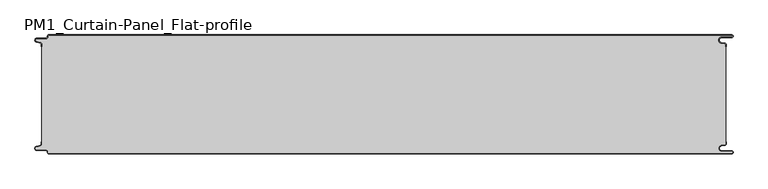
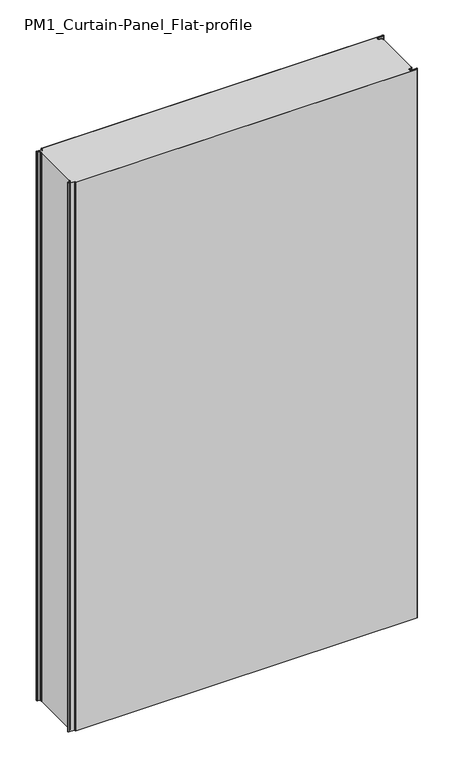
"""IFC4 building model written with IfcOpenShell, lengths in millimetres: plate geometry, PM1_Curtain-Panel_Flat-profile : ACH_PM1_Stone-wool-Panel_200M."""

import ifcopenshell
import ifcopenshell.guid

model = None  # the IFC model being written
_history = None  # IfcOwnerHistory: only IFC2X3 demands one
_inside = {}  # id of a spatial element -> (the spatial element, [elements in it])
_under = {}  # id of a project, library or spatial element -> (it, [spatial elements below it])
_declared = {}  # id of a project -> (the project, [libraries it declares])
_typed = {}  # id of a type object -> (the type object, [elements of that type])
_made_of = {}  # id of a material, layer set ... -> (it, [elements and type objects made of it])


def new_model(schema):
    """Start an empty IFC model of exactly this schema.

    Asked for "IFC4X3", IfcOpenShell would pick the latest addendum, in which some entities
    have other attributes; the version numbers below select the first issue.
    IFC2X3 requires an IfcOwnerHistory on every rooted entity: one is made here for all.
    """
    global model, _history
    if schema == "IFC4X3":
        model = ifcopenshell.file(schema_version=(4, 3, 0, 0))
    else:
        model = ifcopenshell.file(schema=schema)
    _inside.clear()
    _under.clear()
    _declared.clear()
    _typed.clear()
    _made_of.clear()
    _history = None
    if model.schema == "IFC2X3":
        org = make("IfcOrganization", Name="unknown")
        user = make(
            "IfcPersonAndOrganization",
            ThePerson=make("IfcPerson", FamilyName="unknown"),
            TheOrganization=org,
        )
        app = make(
            "IfcApplication",
            ApplicationDeveloper=org,
            Version="unknown",
            ApplicationFullName="unknown",
            ApplicationIdentifier="unknown",
        )
        _history = make(
            "IfcOwnerHistory",
            OwningUser=user,
            OwningApplication=app,
            ChangeAction="ADDED",
            CreationDate=0,
        )
    return model


def make(cls, **values):
    """One entity of the class cls with the attributes given. An attribute that is None is left unset."""
    return model.create_entity(
        cls, **{name: value for name, value in values.items() if value is not None}
    )


def rooted(cls, **values):
    """An entity with a GlobalId (a new one), such as an element, a storey or a relation."""
    return make(cls, GlobalId=ifcopenshell.guid.new(), OwnerHistory=_history, **values)


def si_unit(unit_type, name, prefix=None):
    """IfcSIUnit, for example si_unit("LENGTHUNIT", "METRE", prefix="MILLI")."""
    return make("IfcSIUnit", UnitType=unit_type, Prefix=prefix, Name=name)


def assignment(units):
    """IfcUnitAssignment: the units of a project."""
    return None if units is None else make("IfcUnitAssignment", Units=units)


def point(xyz):
    """IfcCartesianPoint."""
    return None if xyz is None else make("IfcCartesianPoint", Coordinates=xyz)


def direction(xyz):
    """IfcDirection."""
    return None if xyz is None else make("IfcDirection", DirectionRatios=xyz)


def frame(location, z_axis=None, x_axis=None):
    """IfcAxis2Placement3D, a coordinate frame: its origin and axes. An axis left out is left unset."""
    return make(
        "IfcAxis2Placement3D",
        Location=point(location),
        Axis=direction(z_axis),
        RefDirection=direction(x_axis),
    )


def frame_2d(location, x_axis=None):
    """IfcAxis2Placement2D, a coordinate frame in the plane: its origin and x axis."""
    return make(
        "IfcAxis2Placement2D", Location=point(location), RefDirection=direction(x_axis)
    )


def origin():
    """The frame at (0, 0, 0) with its axes left unset."""
    return frame((0.0, 0.0, 0.0))


def origin_with_axes():
    """The frame at (0, 0, 0) with the z axis (0, 0, 1) and the x axis (1, 0, 0) written out."""
    return frame((0.0, 0.0, 0.0), z_axis=(0.0, 0.0, 1.0), x_axis=(1.0, 0.0, 0.0))


def place(relative_to, where):
    """IfcLocalPlacement: puts the frame where relative to a parent placement (None: the world)."""
    return make(
        "IfcLocalPlacement", PlacementRelTo=relative_to, RelativePlacement=where
    )


def context(
    kind, dimensions, precision=None, world=None, true_north=None, identifier=None
):
    """IfcGeometricRepresentationContext, for example the 3D "Model" context."""
    return make(
        "IfcGeometricRepresentationContext",
        ContextIdentifier=identifier,
        ContextType=kind,
        CoordinateSpaceDimension=dimensions,
        Precision=precision,
        WorldCoordinateSystem=world,
        TrueNorth=true_north,
    )


def project(units=None, contexts=None):
    """IfcProject with its units and contexts."""
    return rooted(
        "IfcProject",
        Name="project",
        RepresentationContexts=contexts,
        UnitsInContext=assignment(units),
    )


def spatial(cls, under=None, at=None, **own):
    """A site, building, storey or space (cls), placed at a placement, below another one or the project."""
    s = rooted(cls, ObjectPlacement=at, **own)
    if under is not None:
        _under.setdefault(under.id(), (under, []))[1].append(s)
    return s


def polyline(points):
    """IfcPolyline through the points."""
    return make("IfcPolyline", Points=[point(p) for p in points])


def circle_curve(where, radius):
    """IfcCircle in the frame where."""
    return make("IfcCircle", Position=where, Radius=radius)


def trimmed(basis, trim1, trim2, sense, master):
    """IfcTrimmedCurve: the piece of a basis curve between two trims."""
    return make(
        "IfcTrimmedCurve",
        BasisCurve=basis,
        Trim1=trim1,
        Trim2=trim2,
        SenseAgreement=sense,
        MasterRepresentation=master,
    )


def segment(curve, same_sense, transition):
    """IfcCompositeCurveSegment."""
    return make(
        "IfcCompositeCurveSegment",
        Transition=transition,
        SameSense=same_sense,
        ParentCurve=curve,
    )


def composite_curve(segments, self_intersect=None):
    """IfcCompositeCurve: segments joined end to end."""
    return make("IfcCompositeCurve", Segments=segments, SelfIntersect=self_intersect)


def outline(outer, holes=None, kind="AREA"):
    """IfcArbitraryClosedProfileDef: a profile drawn as a closed curve; with holes, ...WithVoids."""
    if holes is None:
        return make("IfcArbitraryClosedProfileDef", ProfileType=kind, OuterCurve=outer)
    return make(
        "IfcArbitraryProfileDefWithVoids",
        ProfileType=kind,
        OuterCurve=outer,
        InnerCurves=holes,
    )


def extrude(swept, where, along, depth):
    """IfcExtrudedAreaSolid: the profile swept, set in the frame where, extruded along a direction by depth."""
    return make(
        "IfcExtrudedAreaSolid",
        SweptArea=swept,
        Position=where,
        ExtrudedDirection=direction(along),
        Depth=depth,
    )


def shape(context_of_items, identifier, shape_type, items):
    """IfcShapeRepresentation: the items that make up one representation, for example the "Body"."""
    return make(
        "IfcShapeRepresentation",
        ContextOfItems=context_of_items,
        RepresentationIdentifier=identifier,
        RepresentationType=shape_type,
        Items=items,
    )


def source(mapping_origin, context_of_items, identifier, shape_type, items):
    """IfcRepresentationMap: a shape defined once, which mapped items show again and again."""
    return make(
        "IfcRepresentationMap",
        MappingOrigin=mapping_origin,
        MappedRepresentation=shape(context_of_items, identifier, shape_type, items),
    )


def transform(
    local_origin,
    x_axis=None,
    y_axis=None,
    z_axis=None,
    scale=None,
    scale2=None,
    scale3=None,
    uniform=True,
):
    """IfcCartesianTransformationOperator3D, or its non-uniform kind. x_axis, y_axis, z_axis: its Axis1, 2, 3."""
    if uniform:
        return make(
            "IfcCartesianTransformationOperator3D",
            Axis1=direction(x_axis),
            Axis2=direction(y_axis),
            LocalOrigin=point(local_origin),
            Scale=scale,
            Axis3=direction(z_axis),
        )
    return make(
        "IfcCartesianTransformationOperator3DnonUniform",
        Axis1=direction(x_axis),
        Axis2=direction(y_axis),
        LocalOrigin=point(local_origin),
        Scale=scale,
        Axis3=direction(z_axis),
        Scale2=scale2,
        Scale3=scale3,
    )


def mapped(mapping_source, mapping_target):
    """IfcMappedItem: shows the shape of a source again, moved by a transform."""
    return make(
        "IfcMappedItem", MappingSource=mapping_source, MappingTarget=mapping_target
    )


def made_of(thing, what):
    """Note that an element or type object is made of a material, layer set ...; save() writes the relation."""
    if what is not None:
        _made_of.setdefault(what.id(), (what, []))[1].append(thing)
    return thing


def element(
    cls,
    number,
    at=None,
    inside=None,
    cuts=None,
    type_object=None,
    material=None,
    context=None,
    identifier="Body",
    shape_type=None,
    held_by="IfcProductDefinitionShape",
    body=None,
    shapes=None,
    **own,
):
    """One element of the class cls, such as IfcWall. Its Tag is "e" and its number.

    at: its placement. inside: the storey or other place that contains it. cuts: it is an
    opening in that element (IfcRelVoidsElement). A single representation is given by context,
    identifier, shape_type and body (its items); several are given by shapes. held_by: the class
    of the entity that holds the representations. save() writes the other relations.
    """
    e = rooted(cls, Tag="e%d" % number, ObjectPlacement=at, **own)
    if body is not None:
        shapes = [shape(context, identifier, shape_type, body)]
    if shapes is not None:
        e.Representation = make(held_by, Representations=shapes)
    if inside is not None:
        _inside.setdefault(inside.id(), (inside, []))[1].append(e)
    if cuts is not None:
        rooted(
            "IfcRelVoidsElement", RelatingBuildingElement=cuts, RelatedOpeningElement=e
        )
    if type_object is not None:
        _typed.setdefault(type_object.id(), (type_object, []))[1].append(e)
    return made_of(e, material)


def aggregate(whole, parts):
    """IfcRelAggregates: a whole, such as a stair, and the parts it consists of."""
    return rooted("IfcRelAggregates", RelatingObject=whole, RelatedObjects=parts)


def save(model, path):
    """Write the relations noted so far, then the file.

    IfcRelAggregates (storeys below a building ...), IfcRelContainedInSpatialStructure (elements
    in a storey), IfcRelDefinesByType, IfcRelAssociatesMaterial and IfcRelDeclares: one each for
    every whole, place, type object, material and project.
    """
    for whole, parts in _under.values():
        aggregate(whole, parts)
    for where, things in _inside.values():
        rooted(
            "IfcRelContainedInSpatialStructure",
            RelatedElements=things,
            RelatingStructure=where,
        )
    for kind, things in _typed.values():
        rooted("IfcRelDefinesByType", RelatedObjects=things, RelatingType=kind)
    for what, things in _made_of.values():
        rooted("IfcRelAssociatesMaterial", RelatedObjects=things, RelatingMaterial=what)
    for by, libraries in _declared.values():
        rooted("IfcRelDeclares", RelatingContext=by, RelatedDefinitions=libraries)
    model.write(path)


def pm1_curtain_panel_flat_profile_e10bb834(model_context):
    return source(origin(), model_context, "Body", "SweptSolid", [
        extrude(outline(composite_curve([segment(polyline([(-562.4, 0.0), (583.1, 0.0)]), True, "CONTINUOUS"), segment(trimmed(circle_curve(frame_2d((583.1, -2.5)), 2.5), [point((583.1, 0.0))], [point((583.1, -5.0))], False, "CARTESIAN"), True, "CONTINUOUS"), segment(polyline([(583.1, -5.0), (566.1, -5.0)]), True, "CONTINUOUS"), segment(trimmed(circle_curve(frame_2d((566.1, -9.0)), 4.0), [point((566.1, -5.0))], [point((565.4054075, -12.939231))], True, "CARTESIAN"), True, "CONTINUOUS"), segment(polyline([(565.4054075, -12.939231), (571.8514851, -14.075848)]), True, "CONTINUOUS"), segment(trimmed(circle_curve(frame_2d((571.4, -16.636348)), 2.6), [point((571.8514851, -14.075848))], [point((574.0, -16.636348))], False, "CARTESIAN"), True, "CONTINUOUS"), segment(polyline([(574.0, -16.636348), (574.0, -20.0), (573.2, -20.0), (573.2, -16.636348)]), True, "CONTINUOUS"), segment(trimmed(circle_curve(frame_2d((571.4, -16.636348)), 1.8), [point((573.2, -16.636348))], [point((571.7125666, -14.863694))], True, "CARTESIAN"), True, "CONTINUOUS"), segment(polyline([(571.7125666, -14.863694), (565.266489, -13.7270771)]), True, "CONTINUOUS"), segment(trimmed(circle_curve(frame_2d((566.1, -9.0)), 4.8), [point((565.266489, -13.7270771))], [point((566.1, -4.2))], False, "CARTESIAN"), True, "CONTINUOUS"), segment(polyline([(566.1, -4.2), (583.1, -4.2)]), True, "CONTINUOUS"), segment(trimmed(circle_curve(frame_2d((583.1, -2.5)), 1.7), [point((583.1, -4.2))], [point((583.1, -0.8))], True, "CARTESIAN"), True, "CONTINUOUS"), segment(polyline([(583.1, -0.8), (-562.4, -0.8)]), True, "CONTINUOUS"), segment(trimmed(circle_curve(frame_2d((-562.4, -2.0)), 1.2), [point((-562.4, -0.8))], [point((-563.6, -2.0))], True, "CARTESIAN"), True, "CONTINUOUS"), segment(polyline([(-563.6, -2.0), (-563.6, -3.4)]), True, "CONTINUOUS"), segment(trimmed(circle_curve(frame_2d((-566.4, -3.4)), 2.8), [point((-563.6, -3.4))], [point((-566.4, -6.2))], False, "CARTESIAN"), True, "CONTINUOUS"), segment(polyline([(-566.4, -6.2), (-581.9, -6.2)]), True, "CONTINUOUS"), segment(trimmed(circle_curve(frame_2d((-581.9, -9.0)), 2.8), [point((-581.9, -6.2))], [point((-582.529863, -11.7282362))], True, "CARTESIAN"), True, "CONTINUOUS"), segment(polyline([(-582.529863, -11.7282362), (-576.370137, -13.150321)]), True, "CONTINUOUS"), segment(trimmed(circle_curve(frame_2d((-577.0, -15.878557)), 2.8), [point((-576.370137, -13.150321))], [point((-574.2, -15.878557))], False, "CARTESIAN"), True, "CONTINUOUS"), segment(polyline([(-574.2, -15.878557), (-574.2, -20.0), (-575.0, -20.0), (-575.0, -15.878557)]), True, "CONTINUOUS"), segment(trimmed(circle_curve(frame_2d((-577.0, -15.878557)), 2.0), [point((-575.0, -15.878557))], [point((-576.5500978, -13.9298169))], True, "CARTESIAN"), True, "CONTINUOUS"), segment(polyline([(-576.5500978, -13.9298169), (-582.7098239, -12.507732)]), True, "CONTINUOUS"), segment(trimmed(circle_curve(frame_2d((-581.9, -9.0)), 3.6), [point((-582.7098239, -12.507732))], [point((-581.9, -5.4))], False, "CARTESIAN"), True, "CONTINUOUS"), segment(polyline([(-581.9, -5.4), (-566.4, -5.4)]), True, "CONTINUOUS"), segment(trimmed(circle_curve(frame_2d((-566.4, -3.4)), 2.0), [point((-566.4, -5.4))], [point((-564.4, -3.4))], True, "CARTESIAN"), True, "CONTINUOUS"), segment(polyline([(-564.4, -3.4), (-564.4, -2.0)]), True, "CONTINUOUS"), segment(trimmed(circle_curve(frame_2d((-562.4, -2.0)), 2.0), [point((-564.4, -2.0))], [point((-562.4, 0.0))], False, "CARTESIAN"), True, "CONTINUOUS")], self_intersect=False)), origin_with_axes(), (0.0, 0.0, 1.0), 1945.7507136),
        extrude(outline(composite_curve([segment(polyline([(-574.2, -184.1214426), (-574.2, -15.8785573)]), True, "CONTINUOUS"), segment(trimmed(circle_curve(frame_2d((-577.0, -15.8785573)), 2.8), [point((-574.2, -15.8785573))], [point((-576.370137, -13.1503212))], True, "CARTESIAN"), True, "CONTINUOUS"), segment(polyline([(-576.370137, -13.1503212), (-582.5298631, -11.7282362)]), True, "CONTINUOUS"), segment(trimmed(circle_curve(frame_2d((-581.9, -9.0)), 2.8), [point((-582.5298631, -11.7282362))], [point((-581.9, -6.2))], False, "CARTESIAN"), True, "CONTINUOUS"), segment(polyline([(-581.9, -6.2), (-566.4000001, -6.2)]), True, "CONTINUOUS"), segment(trimmed(circle_curve(frame_2d((-566.4000001, -3.4)), 2.8), [point((-566.4000001, -6.2))], [point((-563.6000001, -3.4))], True, "CARTESIAN"), True, "CONTINUOUS"), segment(polyline([(-563.6000001, -3.4), (-563.6000001, -2.0)]), True, "CONTINUOUS"), segment(trimmed(circle_curve(frame_2d((-562.4000001, -2.0)), 1.2), [point((-563.6000001, -2.0))], [point((-562.4000001, -0.8))], False, "CARTESIAN"), True, "CONTINUOUS"), segment(polyline([(-562.4000001, -0.8), (583.1, -0.8)]), True, "CONTINUOUS"), segment(trimmed(circle_curve(frame_2d((583.1, -2.5)), 1.7), [point((583.1, -0.8))], [point((583.1, -4.2))], False, "CARTESIAN"), True, "CONTINUOUS"), segment(polyline([(583.1, -4.2), (566.1, -4.2)]), True, "CONTINUOUS"), segment(trimmed(circle_curve(frame_2d((566.1, -9.0)), 4.8), [point((566.1, -4.2))], [point((565.2664883, -13.7270771))], True, "CARTESIAN"), True, "CONTINUOUS"), segment(polyline([(565.2664883, -13.7270771), (571.7125668, -14.8636953)]), True, "CONTINUOUS"), segment(trimmed(circle_curve(frame_2d((571.4, -16.6363492)), 1.8), [point((571.7125668, -14.8636953))], [point((573.2, -16.6363492))], False, "CARTESIAN"), True, "CONTINUOUS"), segment(polyline([(573.2, -16.6363492), (573.2, -183.3636508)]), True, "CONTINUOUS"), segment(trimmed(circle_curve(frame_2d((571.4, -183.3636508)), 1.8), [point((573.2, -183.3636508))], [point((571.7125668, -185.1363047))], False, "CARTESIAN"), True, "CONTINUOUS"), segment(polyline([(571.7125668, -185.1363047), (565.2664883, -186.2729229)]), True, "CONTINUOUS"), segment(trimmed(circle_curve(frame_2d((566.1, -191.0)), 4.8), [point((565.2664883, -186.2729229))], [point((566.1, -195.8))], True, "CARTESIAN"), True, "CONTINUOUS"), segment(polyline([(566.1, -195.8), (583.1, -195.8)]), True, "CONTINUOUS"), segment(trimmed(circle_curve(frame_2d((583.1, -197.5)), 1.7), [point((583.1, -195.8))], [point((583.1, -199.2))], False, "CARTESIAN"), True, "CONTINUOUS"), segment(polyline([(583.1, -199.2), (-562.4000001, -199.2)]), True, "CONTINUOUS"), segment(trimmed(circle_curve(frame_2d((-562.4000001, -198.0)), 1.2), [point((-562.4000001, -199.2))], [point((-563.6000001, -198.0))], False, "CARTESIAN"), True, "CONTINUOUS"), segment(polyline([(-563.6000001, -198.0), (-563.6000001, -196.6)]), True, "CONTINUOUS"), segment(trimmed(circle_curve(frame_2d((-566.4000001, -196.6)), 2.8), [point((-563.6000001, -196.6))], [point((-566.4000001, -193.8))], True, "CARTESIAN"), True, "CONTINUOUS"), segment(polyline([(-566.4000001, -193.8), (-581.9, -193.8)]), True, "CONTINUOUS"), segment(trimmed(circle_curve(frame_2d((-581.9, -191.0)), 2.8), [point((-581.9, -193.8))], [point((-582.5298631, -188.2717638))], False, "CARTESIAN"), True, "CONTINUOUS"), segment(polyline([(-582.5298631, -188.2717638), (-576.370137, -186.8496788)]), True, "CONTINUOUS"), segment(trimmed(circle_curve(frame_2d((-577.0, -184.1214426)), 2.8), [point((-576.370137, -186.8496788))], [point((-574.2, -184.1214426))], True, "CARTESIAN"), True, "CONTINUOUS")], self_intersect=False)), origin_with_axes(), (0.0, 0.0, 1.0), 1945.7507136),
        extrude(outline(composite_curve([segment(polyline([(583.1, -200.0), (-562.4, -200.0)]), True, "CONTINUOUS"), segment(trimmed(circle_curve(frame_2d((-562.4, -198.0)), 2.0), [point((-562.4, -200.0))], [point((-564.4, -198.0))], False, "CARTESIAN"), True, "CONTINUOUS"), segment(polyline([(-564.4, -198.0), (-564.4, -196.6)]), True, "CONTINUOUS"), segment(trimmed(circle_curve(frame_2d((-566.4, -196.6)), 2.0), [point((-564.4, -196.6))], [point((-566.4, -194.6))], True, "CARTESIAN"), True, "CONTINUOUS"), segment(polyline([(-566.4, -194.6), (-581.9, -194.6)]), True, "CONTINUOUS"), segment(trimmed(circle_curve(frame_2d((-581.9, -191.0)), 3.6), [point((-581.9, -194.6))], [point((-582.7098239, -187.4922678))], False, "CARTESIAN"), True, "CONTINUOUS"), segment(polyline([(-582.7098239, -187.4922678), (-576.5500979, -186.070183)]), True, "CONTINUOUS"), segment(trimmed(circle_curve(frame_2d((-577.0, -184.121443)), 2.0), [point((-576.5500979, -186.070183))], [point((-575.0, -184.121443))], True, "CARTESIAN"), True, "CONTINUOUS"), segment(polyline([(-575.0, -184.121443), (-575.0, -180.0), (-574.2, -180.0), (-574.2, -184.121443)]), True, "CONTINUOUS"), segment(trimmed(circle_curve(frame_2d((-577.0, -184.121443)), 2.8), [point((-574.2, -184.121443))], [point((-576.370137, -186.8496792))], False, "CARTESIAN"), True, "CONTINUOUS"), segment(polyline([(-576.370137, -186.8496792), (-582.529863, -188.271764)]), True, "CONTINUOUS"), segment(trimmed(circle_curve(frame_2d((-581.9, -191.0)), 2.8), [point((-582.529863, -188.271764))], [point((-581.9, -193.8))], True, "CARTESIAN"), True, "CONTINUOUS"), segment(polyline([(-581.9, -193.8), (-566.4, -193.8)]), True, "CONTINUOUS"), segment(trimmed(circle_curve(frame_2d((-566.4, -196.6)), 2.8), [point((-566.4, -193.8))], [point((-563.6, -196.6))], False, "CARTESIAN"), True, "CONTINUOUS"), segment(polyline([(-563.6, -196.6), (-563.6, -198.0)]), True, "CONTINUOUS"), segment(trimmed(circle_curve(frame_2d((-562.4, -198.0)), 1.2), [point((-563.6, -198.0))], [point((-562.4, -199.2))], True, "CARTESIAN"), True, "CONTINUOUS"), segment(polyline([(-562.4, -199.2), (583.1, -199.2)]), True, "CONTINUOUS"), segment(trimmed(circle_curve(frame_2d((583.1, -197.5)), 1.7), [point((583.1, -199.2))], [point((583.1, -195.8))], True, "CARTESIAN"), True, "CONTINUOUS"), segment(polyline([(583.1, -195.8), (566.1, -195.8)]), True, "CONTINUOUS"), segment(trimmed(circle_curve(frame_2d((566.1, -191.0)), 4.8), [point((566.1, -195.8))], [point((565.266489, -186.2729227))], False, "CARTESIAN"), True, "CONTINUOUS"), segment(polyline([(565.266489, -186.2729227), (571.7125666, -185.1363058)]), True, "CONTINUOUS"), segment(trimmed(circle_curve(frame_2d((571.4, -183.363652)), 1.8), [point((571.7125666, -185.1363058))], [point((573.2, -183.363652))], True, "CARTESIAN"), True, "CONTINUOUS"), segment(polyline([(573.2, -183.363652), (573.2, -180.0), (574.0, -180.0), (574.0, -183.363652)]), True, "CONTINUOUS"), segment(trimmed(circle_curve(frame_2d((571.4, -183.363652)), 2.6), [point((574.0, -183.363652))], [point((571.8514851, -185.9241522))], False, "CARTESIAN"), True, "CONTINUOUS"), segment(polyline([(571.8514851, -185.9241522), (565.4054075, -187.0607691)]), True, "CONTINUOUS"), segment(trimmed(circle_curve(frame_2d((566.1, -191.0)), 4.0), [point((565.4054075, -187.0607691))], [point((566.1, -195.0))], True, "CARTESIAN"), True, "CONTINUOUS"), segment(polyline([(566.1, -195.0), (583.1, -195.0)]), True, "CONTINUOUS"), segment(trimmed(circle_curve(frame_2d((583.1, -197.5)), 2.5), [point((583.1, -195.0))], [point((583.1, -200.0))], False, "CARTESIAN"), True, "CONTINUOUS")], self_intersect=False)), origin_with_axes(), (0.0, 0.0, 1.0), 1945.7507136),
    ])


if __name__ == "__main__":
    model = new_model("IFC4")
    model_context = context("Model", 3, world=origin())
    ifc_project = project(units=[si_unit("LENGTHUNIT", "METRE", prefix="MILLI")], contexts=[model_context])
    site = spatial("IfcSite", under=ifc_project)
    building = spatial("IfcBuilding", under=site)
    placement = place(None, origin())
    pm1_curtain_panel_flat_profile_shape = pm1_curtain_panel_flat_profile_e10bb834(model_context)
    element("IfcPlate", 1, ObjectType="PM1_Curtain-Panel_Flat-profile : ACH_PM1_Stone-wool-Panel_200M", at=placement, inside=building, context=model_context, shape_type="MappedRepresentation", body=[
        mapped(pm1_curtain_panel_flat_profile_shape, transform((0.0, 0.0, 0.0), x_axis=(1.0, 0.0, 0.0), y_axis=(0.0, 1.0, 0.0), z_axis=(0.0, 0.0, 1.0))),
    ])
    save(model, "model.ifc")
